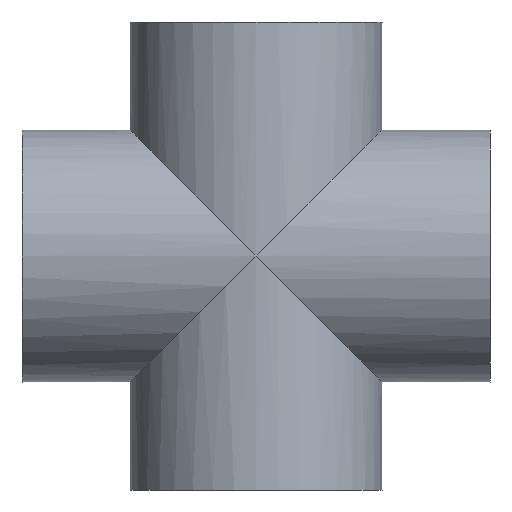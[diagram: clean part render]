
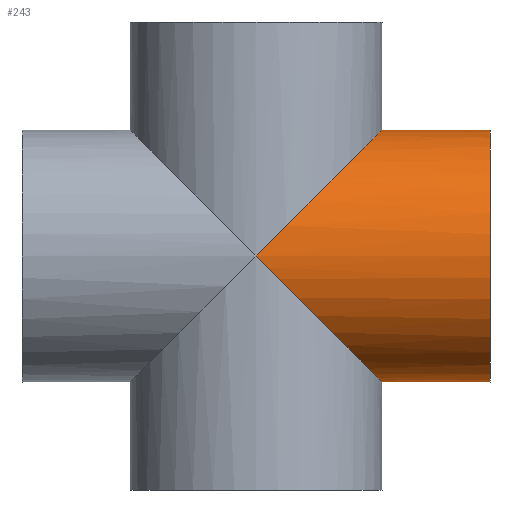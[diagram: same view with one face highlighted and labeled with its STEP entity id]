
A CAD part, left-side view. The second image highlights one B-rep face of the part: STEP entity #243.
In plain terms, the highlighted cylindrical face has radius 21 mm (diameter 42 mm), a full revolution.
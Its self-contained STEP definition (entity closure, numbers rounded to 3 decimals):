
#19=ELLIPSE('',#282,29.698,21.);
#20=ELLIPSE('',#283,29.698,21.);
#43=FACE_BOUND('',#96,.T.);
#63=FACE_OUTER_BOUND('',#95,.T.);
#95=EDGE_LOOP('',(#199,#200));
#96=EDGE_LOOP('',(#201));
#123=CIRCLE('',#284,21.);
#141=VERTEX_POINT('',#431);
#142=VERTEX_POINT('',#432);
#143=VERTEX_POINT('',#435);
#163=EDGE_CURVE('',#141,#142,#19,.T.);
#164=EDGE_CURVE('',#142,#141,#20,.T.);
#165=EDGE_CURVE('',#143,#143,#123,.T.);
#199=ORIENTED_EDGE('',*,*,#163,.F.);
#200=ORIENTED_EDGE('',*,*,#164,.F.);
#201=ORIENTED_EDGE('',*,*,#165,.F.);
#227=CYLINDRICAL_SURFACE('',#281,21.);
#243=ADVANCED_FACE('',(#63,#43),#227,.T.);
#281=AXIS2_PLACEMENT_3D('',#430,#355,#356);
#282=AXIS2_PLACEMENT_3D('',#433,#357,#358);
#283=AXIS2_PLACEMENT_3D('',#434,#359,#360);
#284=AXIS2_PLACEMENT_3D('',#436,#361,#362);
#355=DIRECTION('center_axis',(0.,1.,0.));
#356=DIRECTION('ref_axis',(1.,0.,0.));
#357=DIRECTION('center_axis',(0.,0.707,-0.707));
#358=DIRECTION('ref_axis',(0.,-0.707,-0.707));
#359=DIRECTION('center_axis',(0.,0.707,0.707));
#360=DIRECTION('ref_axis',(0.,0.707,-0.707));
#361=DIRECTION('center_axis',(0.,-1.,0.));
#362=DIRECTION('ref_axis',(1.,0.,0.));
#430=CARTESIAN_POINT('Origin',(0.,0.,0.));
#431=CARTESIAN_POINT('',(21.,0.,0.));
#432=CARTESIAN_POINT('',(-21.,0.,0.));
#433=CARTESIAN_POINT('Origin',(0.,0.,0.));
#434=CARTESIAN_POINT('Origin',(0.,0.,0.));
#435=CARTESIAN_POINT('',(-21.,-39.,0.));
#436=CARTESIAN_POINT('Origin',(0.,-39.,0.));
